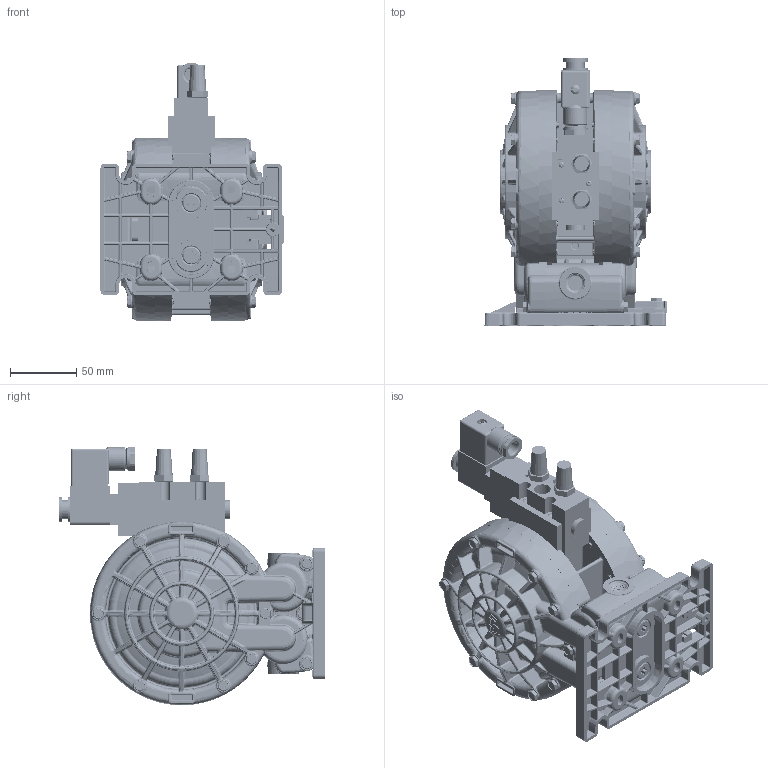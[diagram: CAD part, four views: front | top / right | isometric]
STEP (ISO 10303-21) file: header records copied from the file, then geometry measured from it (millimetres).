
FILE_DESCRIPTION (( 'STEP AP203' ), '1' );
FILE_NAME ('AOEM25_Top 1.STEP', '2022-07-04T05:56:40', ( '' ), ( '' ), 'SwSTEP 2.0', 'SolidWorks 2019', '' );
FILE_SCHEMA (( 'CONFIG_CONTROL_DESIGN' ));
Products named in the file (1): AOEM25_Top 1
Bounding box: 137.62 x 200.74 x 194.48 mm (x, y, z)
Volume: 1440084.3 mm3; surface area: 242152.2 mm2
Topology: 1 solids, 1 shells, 9280 faces, 21894 edges, 12595 vertices
Faces by surface type: bspline 3443, cylinder 1823, plane 1639, torus 989, sphere 854, cone 532
Entity records: 617499 total; most frequent: CARTESIAN_POINT 432757, ORIENTED_EDGE 43114, DIRECTION 33024, EDGE_CURVE 21557, AXIS2_PLACEMENT_3D 14005, VERTEX_POINT 12387, EDGE_LOOP 9428, FACE_OUTER_BOUND 9280
